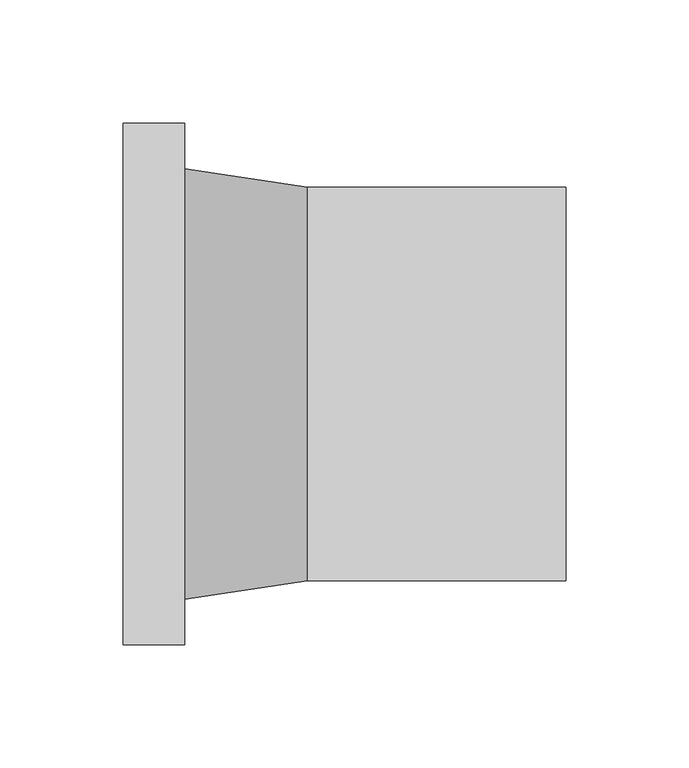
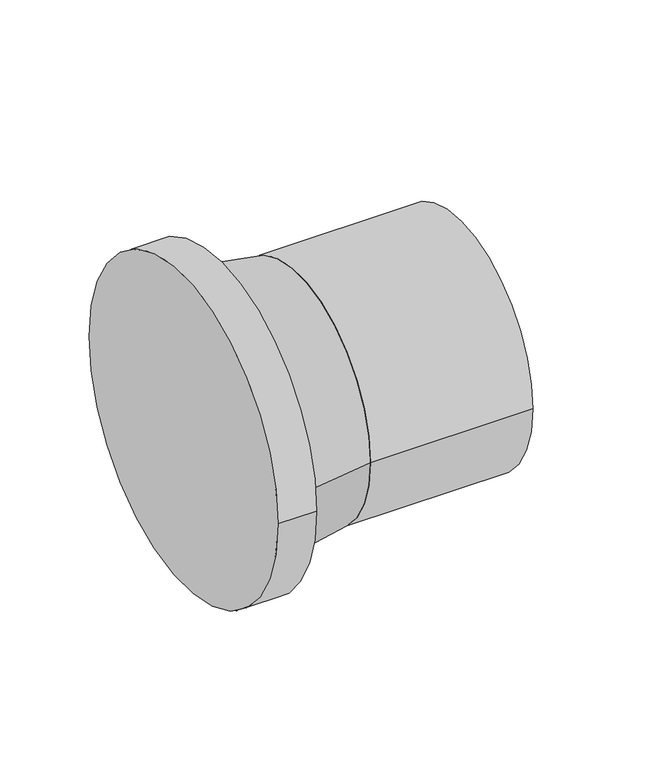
"""IFC4 building model written with IfcOpenShell, lengths in millimetres: pipe fitting geometry, NIRON RED termofusion casquillo SDR 11 : Estándar."""

import ifcopenshell
import ifcopenshell.guid

model = None  # the IFC model being written
_history = None  # IfcOwnerHistory: only IFC2X3 demands one
_inside = {}  # id of a spatial element -> (the spatial element, [elements in it])
_under = {}  # id of a project, library or spatial element -> (it, [spatial elements below it])
_declared = {}  # id of a project -> (the project, [libraries it declares])
_typed = {}  # id of a type object -> (the type object, [elements of that type])
_made_of = {}  # id of a material, layer set ... -> (it, [elements and type objects made of it])


def new_model(schema):
    """Start an empty IFC model of exactly this schema.

    Asked for "IFC4X3", IfcOpenShell would pick the latest addendum, in which some entities
    have other attributes; the version numbers below select the first issue.
    IFC2X3 requires an IfcOwnerHistory on every rooted entity: one is made here for all.
    """
    global model, _history
    if schema == "IFC4X3":
        model = ifcopenshell.file(schema_version=(4, 3, 0, 0))
    else:
        model = ifcopenshell.file(schema=schema)
    _inside.clear()
    _under.clear()
    _declared.clear()
    _typed.clear()
    _made_of.clear()
    _history = None
    if model.schema == "IFC2X3":
        org = make("IfcOrganization", Name="unknown")
        user = make(
            "IfcPersonAndOrganization",
            ThePerson=make("IfcPerson", FamilyName="unknown"),
            TheOrganization=org,
        )
        app = make(
            "IfcApplication",
            ApplicationDeveloper=org,
            Version="unknown",
            ApplicationFullName="unknown",
            ApplicationIdentifier="unknown",
        )
        _history = make(
            "IfcOwnerHistory",
            OwningUser=user,
            OwningApplication=app,
            ChangeAction="ADDED",
            CreationDate=0,
        )
    return model


def make(cls, **values):
    """One entity of the class cls with the attributes given. An attribute that is None is left unset."""
    return model.create_entity(
        cls, **{name: value for name, value in values.items() if value is not None}
    )


def rooted(cls, **values):
    """An entity with a GlobalId (a new one), such as an element, a storey or a relation."""
    return make(cls, GlobalId=ifcopenshell.guid.new(), OwnerHistory=_history, **values)


def si_unit(unit_type, name, prefix=None):
    """IfcSIUnit, for example si_unit("LENGTHUNIT", "METRE", prefix="MILLI")."""
    return make("IfcSIUnit", UnitType=unit_type, Prefix=prefix, Name=name)


def assignment(units):
    """IfcUnitAssignment: the units of a project."""
    return None if units is None else make("IfcUnitAssignment", Units=units)


def point(xyz):
    """IfcCartesianPoint."""
    return None if xyz is None else make("IfcCartesianPoint", Coordinates=xyz)


def direction(xyz):
    """IfcDirection."""
    return None if xyz is None else make("IfcDirection", DirectionRatios=xyz)


def frame(location, z_axis=None, x_axis=None):
    """IfcAxis2Placement3D, a coordinate frame: its origin and axes. An axis left out is left unset."""
    return make(
        "IfcAxis2Placement3D",
        Location=point(location),
        Axis=direction(z_axis),
        RefDirection=direction(x_axis),
    )


def frame_2d(location, x_axis=None):
    """IfcAxis2Placement2D, a coordinate frame in the plane: its origin and x axis."""
    return make(
        "IfcAxis2Placement2D", Location=point(location), RefDirection=direction(x_axis)
    )


def origin():
    """The frame at (0, 0, 0) with its axes left unset."""
    return frame((0.0, 0.0, 0.0))


def origin_2d():
    """The frame at (0, 0) in the plane with its x axis left unset."""
    return frame_2d((0.0, 0.0))


def place(relative_to, where):
    """IfcLocalPlacement: puts the frame where relative to a parent placement (None: the world)."""
    return make(
        "IfcLocalPlacement", PlacementRelTo=relative_to, RelativePlacement=where
    )


def context(
    kind, dimensions, precision=None, world=None, true_north=None, identifier=None
):
    """IfcGeometricRepresentationContext, for example the 3D "Model" context."""
    return make(
        "IfcGeometricRepresentationContext",
        ContextIdentifier=identifier,
        ContextType=kind,
        CoordinateSpaceDimension=dimensions,
        Precision=precision,
        WorldCoordinateSystem=world,
        TrueNorth=true_north,
    )


def project(units=None, contexts=None):
    """IfcProject with its units and contexts."""
    return rooted(
        "IfcProject",
        Name="project",
        RepresentationContexts=contexts,
        UnitsInContext=assignment(units),
    )


def spatial(cls, under=None, at=None, **own):
    """A site, building, storey or space (cls), placed at a placement, below another one or the project."""
    s = rooted(cls, ObjectPlacement=at, **own)
    if under is not None:
        _under.setdefault(under.id(), (under, []))[1].append(s)
    return s


def polyline(points):
    """IfcPolyline through the points."""
    return make("IfcPolyline", Points=[point(p) for p in points])


def circle_curve(where, radius):
    """IfcCircle in the frame where."""
    return make("IfcCircle", Position=where, Radius=radius)


def trimmed(basis, trim1, trim2, sense, master):
    """IfcTrimmedCurve: the piece of a basis curve between two trims."""
    return make(
        "IfcTrimmedCurve",
        BasisCurve=basis,
        Trim1=trim1,
        Trim2=trim2,
        SenseAgreement=sense,
        MasterRepresentation=master,
    )


def segment(curve, same_sense, transition):
    """IfcCompositeCurveSegment."""
    return make(
        "IfcCompositeCurveSegment",
        Transition=transition,
        SameSense=same_sense,
        ParentCurve=curve,
    )


def composite_curve(segments, self_intersect=None):
    """IfcCompositeCurve: segments joined end to end."""
    return make("IfcCompositeCurve", Segments=segments, SelfIntersect=self_intersect)


def outline(outer, holes=None, kind="AREA"):
    """IfcArbitraryClosedProfileDef: a profile drawn as a closed curve; with holes, ...WithVoids."""
    if holes is None:
        return make("IfcArbitraryClosedProfileDef", ProfileType=kind, OuterCurve=outer)
    return make(
        "IfcArbitraryProfileDefWithVoids",
        ProfileType=kind,
        OuterCurve=outer,
        InnerCurves=holes,
    )


def extrude(swept, where, along, depth):
    """IfcExtrudedAreaSolid: the profile swept, set in the frame where, extruded along a direction by depth."""
    return make(
        "IfcExtrudedAreaSolid",
        SweptArea=swept,
        Position=where,
        ExtrudedDirection=direction(along),
        Depth=depth,
    )


def shape(context_of_items, identifier, shape_type, items):
    """IfcShapeRepresentation: the items that make up one representation, for example the "Body"."""
    return make(
        "IfcShapeRepresentation",
        ContextOfItems=context_of_items,
        RepresentationIdentifier=identifier,
        RepresentationType=shape_type,
        Items=items,
    )


def source(mapping_origin, context_of_items, identifier, shape_type, items):
    """IfcRepresentationMap: a shape defined once, which mapped items show again and again."""
    return make(
        "IfcRepresentationMap",
        MappingOrigin=mapping_origin,
        MappedRepresentation=shape(context_of_items, identifier, shape_type, items),
    )


def transform(
    local_origin,
    x_axis=None,
    y_axis=None,
    z_axis=None,
    scale=None,
    scale2=None,
    scale3=None,
    uniform=True,
):
    """IfcCartesianTransformationOperator3D, or its non-uniform kind. x_axis, y_axis, z_axis: its Axis1, 2, 3."""
    if uniform:
        return make(
            "IfcCartesianTransformationOperator3D",
            Axis1=direction(x_axis),
            Axis2=direction(y_axis),
            LocalOrigin=point(local_origin),
            Scale=scale,
            Axis3=direction(z_axis),
        )
    return make(
        "IfcCartesianTransformationOperator3DnonUniform",
        Axis1=direction(x_axis),
        Axis2=direction(y_axis),
        LocalOrigin=point(local_origin),
        Scale=scale,
        Axis3=direction(z_axis),
        Scale2=scale2,
        Scale3=scale3,
    )


def mapped(mapping_source, mapping_target):
    """IfcMappedItem: shows the shape of a source again, moved by a transform."""
    return make(
        "IfcMappedItem", MappingSource=mapping_source, MappingTarget=mapping_target
    )


def made_of(thing, what):
    """Note that an element or type object is made of a material, layer set ...; save() writes the relation."""
    if what is not None:
        _made_of.setdefault(what.id(), (what, []))[1].append(thing)
    return thing


def element(
    cls,
    number,
    at=None,
    inside=None,
    cuts=None,
    type_object=None,
    material=None,
    context=None,
    identifier="Body",
    shape_type=None,
    held_by="IfcProductDefinitionShape",
    body=None,
    shapes=None,
    **own,
):
    """One element of the class cls, such as IfcWall. Its Tag is "e" and its number.

    at: its placement. inside: the storey or other place that contains it. cuts: it is an
    opening in that element (IfcRelVoidsElement). A single representation is given by context,
    identifier, shape_type and body (its items); several are given by shapes. held_by: the class
    of the entity that holds the representations. save() writes the other relations.
    """
    e = rooted(cls, Tag="e%d" % number, ObjectPlacement=at, **own)
    if body is not None:
        shapes = [shape(context, identifier, shape_type, body)]
    if shapes is not None:
        e.Representation = make(held_by, Representations=shapes)
    if inside is not None:
        _inside.setdefault(inside.id(), (inside, []))[1].append(e)
    if cuts is not None:
        rooted(
            "IfcRelVoidsElement", RelatingBuildingElement=cuts, RelatedOpeningElement=e
        )
    if type_object is not None:
        _typed.setdefault(type_object.id(), (type_object, []))[1].append(e)
    return made_of(e, material)


def aggregate(whole, parts):
    """IfcRelAggregates: a whole, such as a stair, and the parts it consists of."""
    return rooted("IfcRelAggregates", RelatingObject=whole, RelatedObjects=parts)


def save(model, path):
    """Write the relations noted so far, then the file.

    IfcRelAggregates (storeys below a building ...), IfcRelContainedInSpatialStructure (elements
    in a storey), IfcRelDefinesByType, IfcRelAssociatesMaterial and IfcRelDeclares: one each for
    every whole, place, type object, material and project.
    """
    for whole, parts in _under.values():
        aggregate(whole, parts)
    for where, things in _inside.values():
        rooted(
            "IfcRelContainedInSpatialStructure",
            RelatedElements=things,
            RelatingStructure=where,
        )
    for kind, things in _typed.values():
        rooted("IfcRelDefinesByType", RelatedObjects=things, RelatingType=kind)
    for what, things in _made_of.values():
        rooted("IfcRelAssociatesMaterial", RelatedObjects=things, RelatingMaterial=what)
    for by, libraries in _declared.values():
        rooted("IfcRelDeclares", RelatingContext=by, RelatedDefinitions=libraries)
    model.write(path)


def plane_surface(at):
    """IfcPlane: the flat surface through the origin of the frame at, square to its z axis."""
    return make("IfcPlane", Position=at)


def revolved_surface(curve, axis_point, axis_direction):
    """IfcSurfaceOfRevolution: the curve turned about the line through axis_point along axis_direction."""
    return make(
        "IfcSurfaceOfRevolution",
        SweptCurve=make("IfcArbitraryOpenProfileDef", ProfileType="CURVE", Curve=curve),
        AxisPosition=make("IfcAxis1Placement", Location=point(axis_point), Axis=direction(axis_direction)),
    )


def advanced_brep(points, edges, surfaces, faces):
    """IfcAdvancedBrep: a solid bounded by faces that lie on surfaces and meet in shared edges.

    An edge is (start, end): straight between two places in points (the first is 0);
    or (start, end, curve); or (start, end, curve, False) where it runs against its curve.
    A face is (place in surfaces, loops), or (place, loops, False) where it looks against
    its surface's normal. A loop lists edges by number (the first is 1), with a minus sign
    where the edge is run from its end to its start. The first loop is the outer one.
    """
    corners = [point(p) for p in points]
    vertices = [make("IfcVertexPoint", VertexGeometry=c) for c in corners]
    made = []
    for start, end, *more in edges:
        made.append(
            make(
                "IfcEdgeCurve",
                EdgeStart=vertices[start],
                EdgeEnd=vertices[end],
                EdgeGeometry=more[0] if more else make("IfcPolyline", Points=[corners[start], corners[end]]),
                SameSense=more[1] if len(more) > 1 else True,
            )
        )
    hull = []
    for where, loops, *sense in faces:
        bounds = []
        for j, loop in enumerate(loops):
            ring = [make("IfcOrientedEdge", EdgeElement=made[abs(k) - 1], Orientation=k > 0) for k in loop]
            bounds.append(
                make(
                    "IfcFaceOuterBound" if j == 0 else "IfcFaceBound",
                    Bound=make("IfcEdgeLoop", EdgeList=ring),
                    Orientation=True,
                )
            )
        hull.append(make("IfcAdvancedFace", Bounds=bounds, FaceSurface=surfaces[where], SameSense=sense[0] if sense else True))
    return make("IfcAdvancedBrep", Outer=make("IfcClosedShell", CfsFaces=hull))


def pipe_fitting_cb57d243(model_context):
    return source(origin(), model_context, "Body", "SolidModel", [
        extrude(outline(composite_curve([segment(trimmed(circle_curve(origin_2d(), 80.0), [point((-80.0, 0.0))], [point((80.0, 0.0))], False, "CARTESIAN"), True, "CONTINUOUS"), segment(trimmed(circle_curve(origin_2d(), 80.0), [point((80.0, 0.0))], [point((-80.0, 0.0))], False, "CARTESIAN"), True, "CONTINUOUS")], self_intersect=False)), frame((75.0, 0.0, 0.0), z_axis=(1.0, 0.0, 0.0), x_axis=(0.0, 1.0, 0.0)), (0.0, 0.0, 1.0), 105.0),
        advanced_brep(
        [(75.0, -80.0, 0.0), (75.0, 80.0, 0.0), (25.0, -87.5, 0.0), (25.0, 87.5, 0.0)],
        [
            (0, 1, circle_curve(frame((75.0, 0.0, 0.0), z_axis=(1.0, 0.0, 0.0), x_axis=(0.0, -1.0, 0.0)), 80.0)),
            (1, 0, circle_curve(frame((75.0, 0.0, 0.0), z_axis=(1.0, 0.0, 0.0), x_axis=(0.0, 1.0, 0.0)), 80.0)),
            (2, 3, circle_curve(frame((25.0, 0.0, 0.0), z_axis=(-1.0, 0.0, 0.0), x_axis=(0.0, 1.0, 0.0)), 87.5)),
            (3, 2, circle_curve(frame((25.0, 0.0, 0.0), z_axis=(-1.0, 0.0, 0.0), x_axis=(0.0, -1.0, 0.0)), 87.5)),
            (3, 1),
            (0, 2),
        ],
        [
            plane_surface(frame((75.0, 0.0, 0.0), z_axis=(1.0, 0.0, 0.0), x_axis=(0.0, 0.0, -1.0))),
            plane_surface(frame((25.0, 0.0, 0.0), z_axis=(-1.0, 0.0, 0.0), x_axis=(0.0, 0.0, -1.0))),
            revolved_surface(polyline([(75.0, -79.99999999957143, 0.0), (25.0, -87.5, 0.0)]), (608.3333333, 0.0, 0.0), (-1.0, 0.0, 0.0)),
            revolved_surface(polyline([(75.0, 79.99999999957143, 0.0), (25.0, 87.5, 0.0)]), (608.3333333, 0.0, 0.0), (-1.0, 0.0, 0.0)),
        ],
        [
            (0, [[1, 2]]),
            (1, [[3, 4]]),
            (2, [[-4, 5, -1, 6]]),
            (3, [[-3, -6, -2, -5]]),
        ],
    ),
        extrude(outline(composite_curve([segment(trimmed(circle_curve(origin_2d(), 106.0), [point((-106.0, 0.0))], [point((106.0, 0.0))], False, "CARTESIAN"), True, "CONTINUOUS"), segment(trimmed(circle_curve(origin_2d(), 106.0), [point((106.0, 0.0))], [point((-106.0, 0.0))], False, "CARTESIAN"), True, "CONTINUOUS")], self_intersect=False)), frame((0.0, 0.0, 0.0), z_axis=(1.0, 0.0, 0.0), x_axis=(0.0, 1.0, 0.0)), (0.0, 0.0, 1.0), 25.0),
    ])


if __name__ == "__main__":
    model = new_model("IFC4")
    model_context = context("Model", 3, world=origin())
    ifc_project = project(units=[si_unit("LENGTHUNIT", "METRE", prefix="MILLI")], contexts=[model_context])
    site = spatial("IfcSite", under=ifc_project)
    building = spatial("IfcBuilding", under=site)
    placement = place(None, origin())
    pipe_fitting_shape = pipe_fitting_cb57d243(model_context)
    element("IfcPipeFitting", 1, ObjectType="NIRON RED termofusion casquillo SDR 11 : Estándar", at=placement, inside=building, context=model_context, shape_type="MappedRepresentation", body=[
        mapped(pipe_fitting_shape, transform((0.0, 0.0, 0.0), x_axis=(1.0, 0.0, 0.0), y_axis=(0.0, 1.0, 0.0), z_axis=(0.0, 0.0, 1.0))),
    ])
    save(model, "model.ifc")
